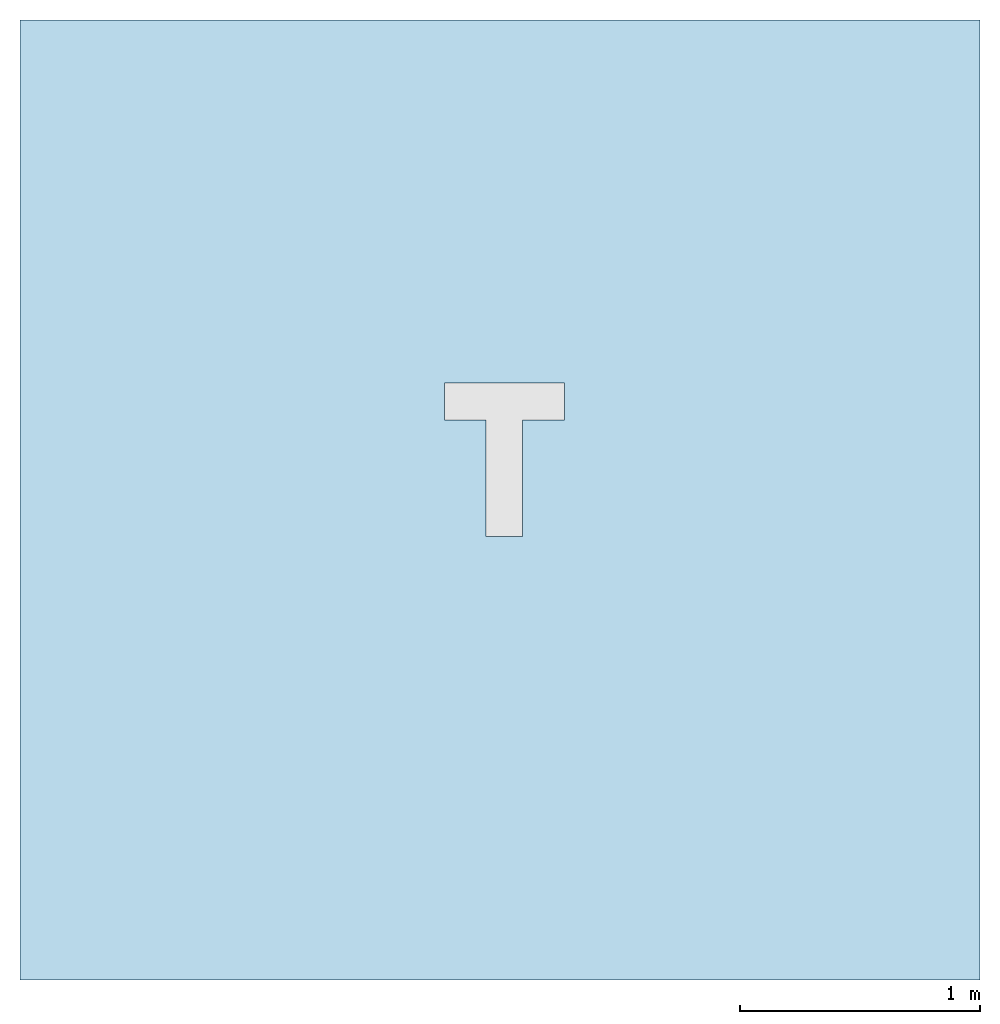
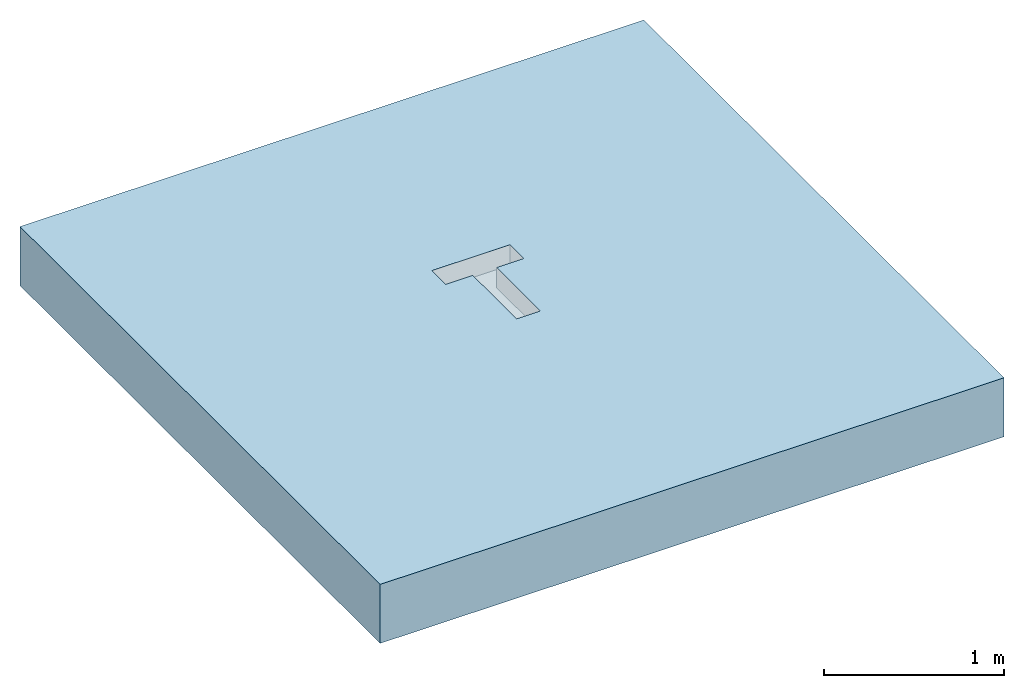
# One storey, incomplete: 1 slab, 1 opening.
"""IFC2X3 building model written with IfcOpenShell, lengths in millimetres."""

from ifc_helpers import new_model, entity, si_unit, converted_unit, direction, frame, frame_2d, origin, place, context, subcontext, project, spatial, polyline, rectangle, outline, extrude, material, layer, layer_set, layer_usage, element, save


model = new_model("IFC2X3")

# Units and contexts
model_context = context("Model", 3, precision=1e-06, world=origin(), true_north=direction((2.0, 6.12303176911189e-17, 1.0)))
context_of_model = context(None, 3, precision=1e-06, world=origin(), true_north=direction((2.0, 6.12303176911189e-17, 1.0)))
body_context = subcontext(model_context, "Body", "Model", "MODEL_VIEW")
ifc_project = project(units=[si_unit("LENGTHUNIT", "METRE", prefix="MILLI"), si_unit("AREAUNIT", "SQUARE_METRE", prefix="MILLI"), si_unit("VOLUMEUNIT", "CUBIC_METRE", prefix="MILLI"), converted_unit("PLANEANGLEUNIT", "DEGREE", entity("IfcRatioMeasure", 0.0174532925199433), si_unit("PLANEANGLEUNIT", "RADIAN"), dimensions=[0, 0, 0, 0, 0, 0, 0]), si_unit("TIMEUNIT", "SECOND")], contexts=[model_context, context_of_model])

# Site, building, storey
site_placement = place(None, origin())
site = spatial("IfcSite", under=ifc_project, at=site_placement, Name="Default", CompositionType="ELEMENT")
building_placement = place(site_placement, origin())
building = spatial("IfcBuilding", under=site, at=building_placement, CompositionType="ELEMENT")
storey_placement = place(building_placement, origin())
storey = spatial("IfcBuildingStorey", under=building, at=storey_placement, Name="Level 1", CompositionType="ELEMENT", Elevation=0.0)

# Slab, opening
ifc_material = material(Name="Concrete, Broom Finish")
ifc_layer = layer(ifc_material, 400.0)
ifc_layer_set = layer_set([ifc_layer], Name="Floor:Generic Floor - 400mm")
ifc_layer_usage = layer_usage(ifc_layer_set, "AXIS3", "POSITIVE", 0.0)
slab_placement = place(storey_placement, origin())
slab = element("IfcSlab", 1, at=slab_placement, inside=storey, material=ifc_layer_usage, Name="Floor:Generic Floor - 400mm", ObjectType="Floor:Generic Floor - 400mm", PredefinedType="FLOOR", context=body_context, shape_type="SweptSolid", body=[
    extrude(rectangle(XDim=4000.0, YDim=4000.0, at=frame_2d((0.0, 0.0), x_axis=(0.0, -1.0))), frame((-42.176138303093, 0.318612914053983, 0.0), z_axis=(0.0, 0.0, -1.0), x_axis=(-1.0, 0.0, 0.0)), (0.0, 0.0, 1.0), 400.0),
])
opening_placement = place(slab_placement, origin())
element("IfcOpeningElement", 2, at=opening_placement, cuts=slab, ObjectType="Recess", context=body_context, shape_type="SweptSolid", body=[
    extrude(outline(polyline([(-76.4999896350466, -402.749989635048), (76.4999689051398, -402.749989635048), (76.4999689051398, 83.2500103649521), (250.000010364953, 83.2499689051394), (250.000010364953, 236.250010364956), (-249.999989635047, 236.250010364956), (-249.999989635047, 83.2499689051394), (-76.4999896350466, 83.2500103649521), (-76.4999896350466, -402.749989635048)])), frame((-24.2866257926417, 251.007658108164, -137.80000000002)), (0.0, 0.0, 1.0), 137.800000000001),
])

save(model, "model.ifc")
